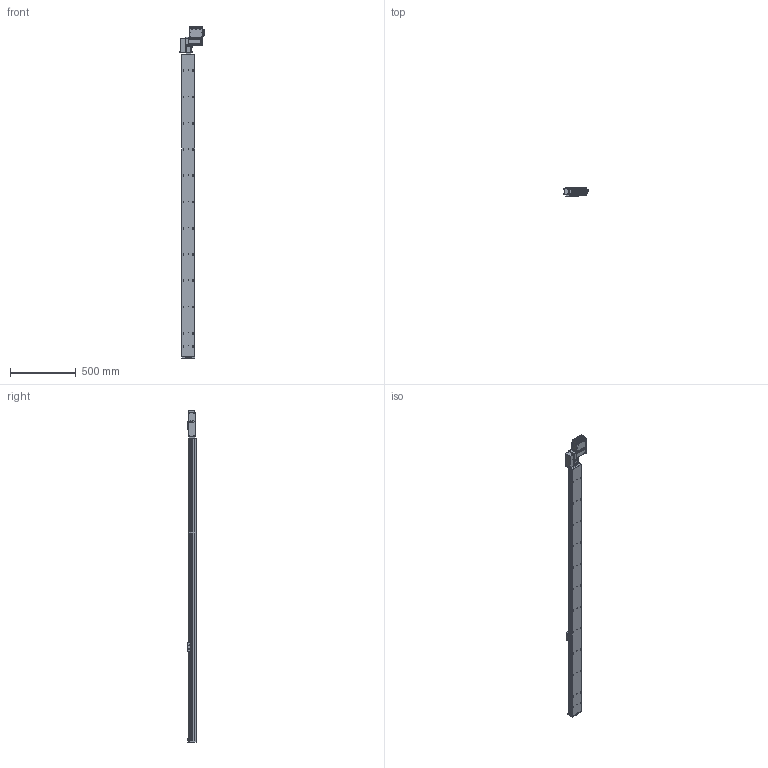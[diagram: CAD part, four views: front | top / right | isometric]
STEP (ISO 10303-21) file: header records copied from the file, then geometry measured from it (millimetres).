
FILE_DESCRIPTION (( 'STEP AP203' ), '1' );
FILE_NAME ('S10 TBN LH S2200.STEP', '2012-12-07T12:29:21', ( 'Conseil Régional Haute-Normandie' ), ( 'Conseil Régional Haute-Normandie' ), 'SwSTEP 2.0', 'SolidWorks 2010', '' );
FILE_SCHEMA (( 'CONFIG_CONTROL_DESIGN' ));
Length unit declared in the file: millimetre
Products named in the file (30): vis M5 L12_Default; embout; Cvis M5 L30_Default; Vis M5 L16-2_Default_1; vis M5 L5_Default; BU45 Carte d''axe A11_5; Couvercle_3; Moteur 60BLDC90A_3; Radiateur profil_X2_00E9_X0_ 100x25_3; Colonnette ronde_3; axe 2300; S10 TBN LH S2200; cache t皻e axe_Default; cache t皻e_Default; palette tbn; plaque de bout s10_Default; Plaque racord_Default; renvoi LH_Default; Assem1_7; T_X2_00F4_X0_le contre le moteur_5; BU41 Carte Alimentation P05_3; Colonnette_3; T_X2_00F4_X0_le fond_3; Connecteur rond D10 3cts_5; Connecteur rond D12 4cts_5; Sub D 9cts 90_X2_00B_X0__3; T_X2_00F4_X0_le Arri_X2_00E8_X0_re_5; T_X2_00F4_X0_le lat_X2_00E9_X0_rale_5; Vis TF 3 torkx_1_1; axe 2200.SLDPRT_Default
Assembly tree (63 placements, depth 3):
  S10 TBN LH S2200
    vis M5 L12_Default  x4
    vis M5 L5_Default  x4
    cache t皻e_Default  x2
    Vis M5 L16-2_Default_1  x4
    palette tbn
    Cvis M5 L30_Default  x2
    axe 2200.SLDPRT_Default
      axe 2300
    plaque de bout s10_Default
    cache t皻e axe_Default
    embout
    Assem1_7
      Sub D 9cts 90_X2_00B_X0__3
      T_X2_00F4_X0_le lat_X2_00E9_X0_rale_5  x2
      Colonnette_3  x2
      Connecteur rond D10 3cts_5  x2
      Vis TF 3 torkx_1_1  x21
      Moteur 60BLDC90A_3
      T_X2_00F4_X0_le fond_3
      T_X2_00F4_X0_le Arri_X2_00E8_X0_re_5
      BU45 Carte d''axe A11_5
      T_X2_00F4_X0_le contre le moteur_5
      Connecteur rond D12 4cts_5
      Couvercle_3
      Radiateur profil_X2_00E9_X0_ 100x25_3
      BU41 Carte Alimentation P05_3
      Colonnette ronde_3
    Plaque racord_Default
    renvoi LH_Default
Bounding box: 189.8 x 66.75 x 2528.49 mm (x, y, z)
Volume: 12715665.9 mm3; surface area: 1380827.7 mm2
Topology: 61 solids, 61 shells, 2351 faces, 5823 edges, 3762 vertices
Faces by surface type: plane 1108, cylinder 1026, cone 174, bspline 40, torus 3
Entity records: 49421 total; most frequent: CARTESIAN_POINT 8876, DIRECTION 8010, ORIENTED_EDGE 7242, EDGE_CURVE 3621, AXIS2_PLACEMENT_3D 2995, VERTEX_POINT 2366, VECTOR 2020, LINE 2020
